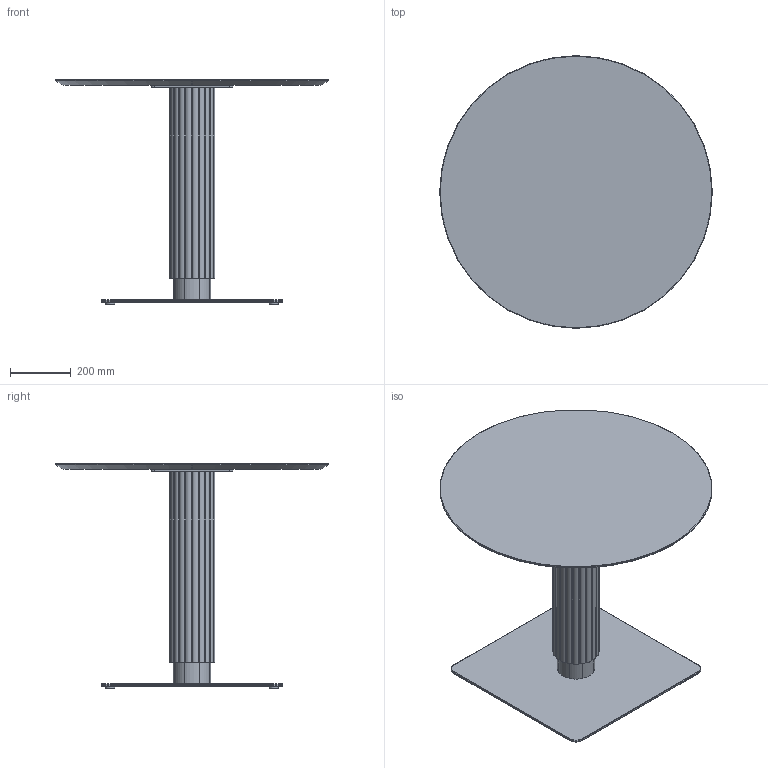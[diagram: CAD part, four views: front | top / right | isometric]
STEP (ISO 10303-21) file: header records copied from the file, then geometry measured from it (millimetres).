
FILE_DESCRIPTION( ('This file contains a STEP AP42 implementation' ,'as created by ZW3D STEP Interface translator.') ,'2;1' );
FILE_NAME( 'Godron - B_Carré - F1 - M5 - 900 x 900 x 750.stp' ,'24 912. 95119', (''), ('ZWCAD Software Co.'), 'Version 1.0', 'ZW3D to STEP translator', '' );
FILE_SCHEMA(('AUTOMOTIVE_DESIGN { 1 0 10303 214 1 1 1 1 }'));
Length unit declared in the file: millimetre
Products named in the file (15): 0; PIED BISTROT PARAMETRIQUE_; CROIX ACIER 370 V.02_; CRX-X370-02_; SOCLE ACIER L 600x600 V.02_; SCL-R600-02_; PLA-R30A-01_; PLA-R30A-01; COLONNE ACIER Ø48.5 V.02_; TUB-D048-02_; PLA-R48A-01_; Colonne GODRON H700_; WUERTH 0276063020 Euro-screw 6.3x2 Verzinkt_; PLATEAU BISTROT PARAMETRIQUE_; insert_m6_13_
Assembly tree (23 placements, depth 3):
  0
  PIED BISTROT PARAMETRIQUE_
    CROIX ACIER 370 V.02_
      CRX-X370-02_
    SOCLE ACIER L 600x600 V.02_
      SCL-R600-02_
      PLA-R30A-01_
      PLA-R30A-01  x3
    COLONNE ACIER Ø48.5 V.02_
      TUB-D048-02_
      PLA-R48A-01_  x2
    Colonne GODRON H700_
    WUERTH 0276063020 Euro-screw 6.3x2 Verzinkt_
    PLATEAU BISTROT PARAMETRIQUE_
      insert_m6_13_  x8
Bounding box: 900 x 900 x 744 mm (x, y, z)
Volume: 26116679.5 mm3; surface area: 3447070.8 mm2
Topology: 27 solids, 27 shells, 669 faces, 1662 edges, 1062 vertices
Faces by surface type: plane 302, cylinder 192, bspline 121, cone 53, torus 1
Full cylindrical faces by diameter (mm): 4.88 x1, 6 x8, 6.3 x1, 8 x45, 12 x2, 14 x2, 30 x4, 44.5 x3, 48.5 x1
Entity records: 16810 total; most frequent: CARTESIAN_POINT 4133, DIRECTION 2344, ORIENTED_EDGE 2338, EDGE_CURVE 1169, AXIS2_PLACEMENT_3D 829, VERTEX_POINT 756, VECTOR 686, LINE 686
